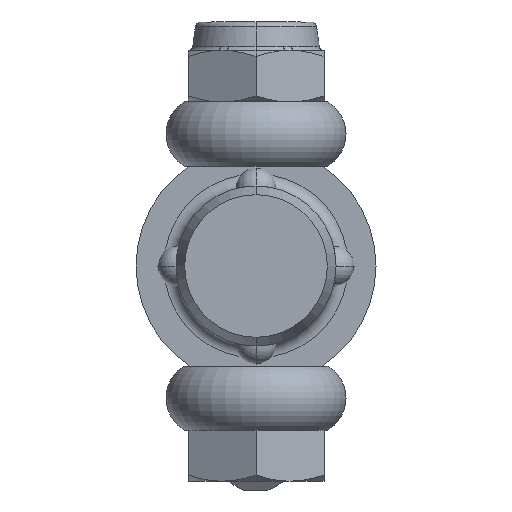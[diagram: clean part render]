
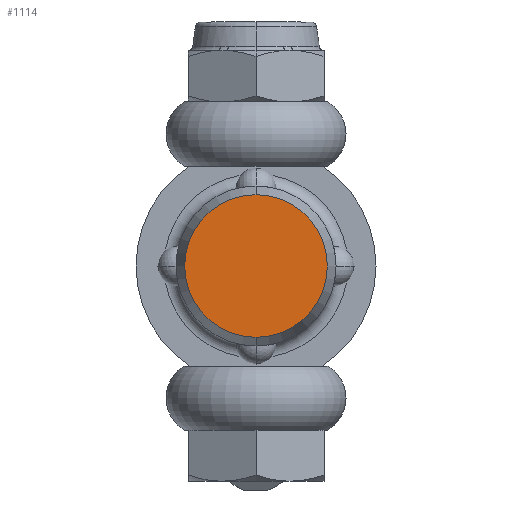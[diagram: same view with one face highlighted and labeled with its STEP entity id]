
A CAD part, front view. The second image highlights one B-rep face of the part: STEP entity #1114.
In plain terms, the highlighted planar face has unit normal (0, -1, 0) as drawn and (-1, 0, 0) by its records, which use the part's own axes.
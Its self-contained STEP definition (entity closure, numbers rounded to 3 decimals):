
#595 = CIRCLE ( 'NONE', #5152, 8.91 ) ;
#763 = DIRECTION ( 'NONE',  ( -1., 0., 0. ) ) ;
#905 = CARTESIAN_POINT ( 'NONE',  ( -69.7, 0., 8.91 ) ) ;
#911 = ORIENTED_EDGE ( 'NONE', *, *, #2864, .F. ) ;
#1114 = ADVANCED_FACE ( 'PLANAR_4', ( #2248 ), #3283, .T. ) ;
#1265 = DIRECTION ( 'NONE',  ( 1., 0., 0. ) ) ;
#1769 = EDGE_LOOP ( 'NONE', ( #2033, #911 ) ) ;
#1791 = VERTEX_POINT ( 'NONE', #6036 ) ;
#2033 = ORIENTED_EDGE ( 'NONE', *, *, #3342, .F. ) ;
#2041 = CARTESIAN_POINT ( 'NONE',  ( -69.7, 0., 0. ) ) ;
#2248 = FACE_OUTER_BOUND ( 'NONE', #1769, .T. ) ;
#2285 = CARTESIAN_POINT ( 'NONE',  ( -69.7, 0., 0. ) ) ;
#2714 = CIRCLE ( 'NONE', #4724, 8.91 ) ;
#2864 = EDGE_CURVE ( 'NONE', #3454, #1791, #2714, .T. ) ;
#3283 = PLANE ( 'NONE',  #6425 ) ;
#3342 = EDGE_CURVE ( 'NONE', #1791, #3454, #595, .T. ) ;
#3454 = VERTEX_POINT ( 'NONE', #905 ) ;
#4308 = DIRECTION ( 'NONE',  ( 0., 0., 1. ) ) ;
#4596 = DIRECTION ( 'NONE',  ( 0., 0., -1. ) ) ;
#4724 = AXIS2_PLACEMENT_3D ( 'NONE', #2041, #6093, #4596 ) ;
#5152 = AXIS2_PLACEMENT_3D ( 'NONE', #5313, #1265, #5854 ) ;
#5313 = CARTESIAN_POINT ( 'NONE',  ( -69.7, 0., 0. ) ) ;
#5854 = DIRECTION ( 'NONE',  ( 0., 0., -1. ) ) ;
#6036 = CARTESIAN_POINT ( 'NONE',  ( -69.7, 0., -8.91 ) ) ;
#6093 = DIRECTION ( 'NONE',  ( 1., 0., 0. ) ) ;
#6425 = AXIS2_PLACEMENT_3D ( 'NONE', #2285, #763, #4308 ) ;
